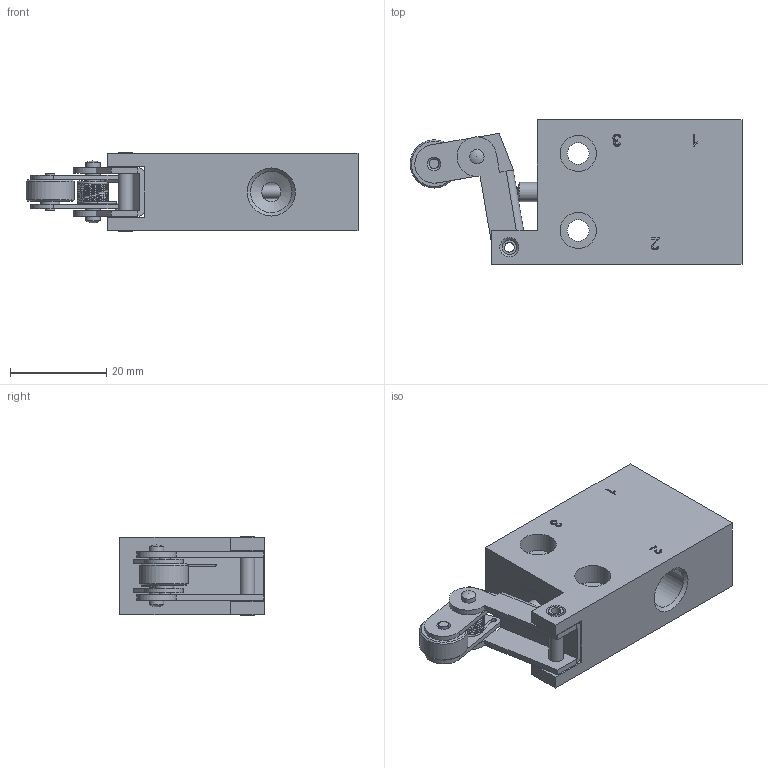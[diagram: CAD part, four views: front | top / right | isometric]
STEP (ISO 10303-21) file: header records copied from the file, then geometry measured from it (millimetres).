
FILE_DESCRIPTION(/* description */ ('Unknown','CAx-IF Rec.Pracs.---Representation and Presentation of Product Manufacturing Information (PMI)---4.0---2014-10-13','CAx-IF Rec.Pracs.---3D Tessellated Geometry---0.4---2014-09-14','2;1'),/* implementation_level */ '2;1');
FILE_NAME(/* name */ 'BL 311 301',/* time_stamp */ '2020-07-03T13:19:47+02:00',/* author */ ('Unknown'),/* organization */ ('Unknown'),/* preprocessor_version */ 'ST-DEVELOPER v16.7',/* originating_system */ 'DEX',/* authorisation */ $);
FILE_SCHEMA (('AP242_MANAGED_MODEL_BASED_3D_ENGINEERING_MIM_LF { 1 0 10303 442 20130219 1 4 }'));
Length unit declared in the file: millimetre
Products named in the file (2): BL 311 301
Assembly tree (1 placements, depth 2):
  BL 311 301
    BL 311 301
Bounding box: 68.93 x 30 x 16.2 mm (x, y, z)
Volume: 18163.9 mm3; surface area: 11450.5 mm2
Topology: 12 solids, 12 shells, 222 faces, 553 edges, 366 vertices
Faces by surface type: plane 88, cylinder 61, bspline 49, cone 21, sphere 3
Full cylindrical faces by diameter (mm): 0.5 x3, 1 x2, 2 x5, 2.8 x1, 3 x10, 4 x7, 4.05 x1, 4.5 x2, 5 x1, 6 x1, 7 x1, 7.5 x4, 8 x1, 8.06 x1, 8.08 x1, 8.566 x6, 10 x1
Entity records: 10581 total; most frequent: CARTESIAN_POINT 4975, ORIENTED_EDGE 896, DIRECTION 840, EDGE_CURVE 448, EDGE_LOOP 352, FACE_BOUND 352, VERTEX_POINT 334, AXIS2_PLACEMENT_3D 317
